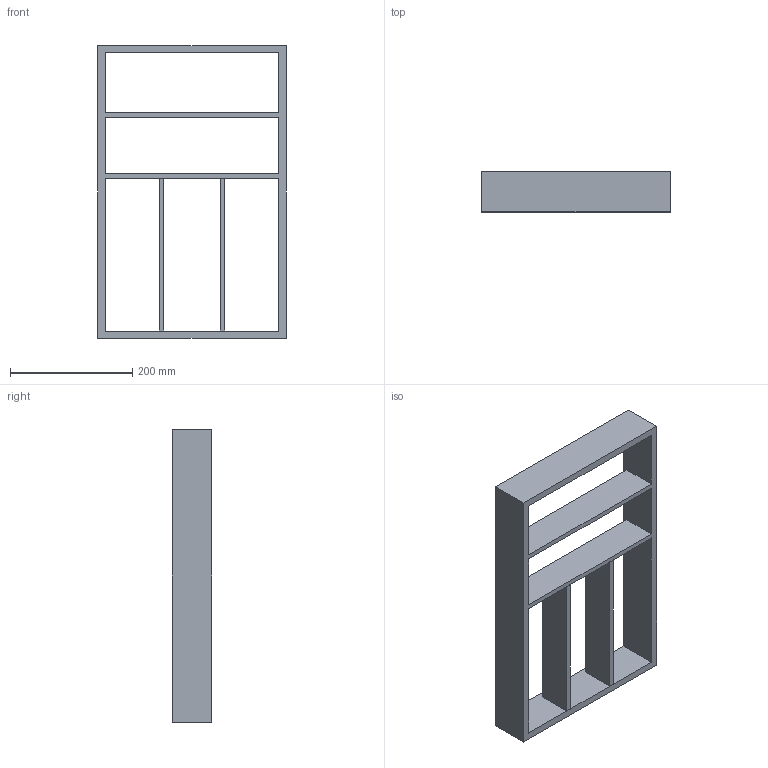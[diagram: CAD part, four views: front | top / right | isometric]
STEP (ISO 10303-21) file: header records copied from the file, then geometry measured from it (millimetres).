
FILE_DESCRIPTION (( 'STEP AP214' ), '1' );
FILE_NAME ('Vario Besteck NL500_B400_16 mm_Alu.step', '2010-11-04T08:33:13', ( 'grass' ), ( '' ), 'SwSTEP 2.0', 'SolidWorks 2010', '' );
FILE_SCHEMA (( 'AUTOMOTIVE_DESIGN' ));
Length unit declared in the file: millimetre
Products named in the file (1): Vario Besteck NL500_B400_16 mm_Alu
Bounding box: 308 x 65 x 479 mm (x, y, z)
Volume: 1676376 mm3; surface area: 373584 mm2
Topology: 3 solids, 3 shells, 28 faces, 72 edges, 48 vertices
Faces by surface type: plane 28
Entity records: 900 total; most frequent: CARTESIAN_POINT 149, ORIENTED_EDGE 144, DIRECTION 130, LINE 72, VECTOR 72, EDGE_CURVE 72, VERTEX_POINT 48, EDGE_LOOP 32
